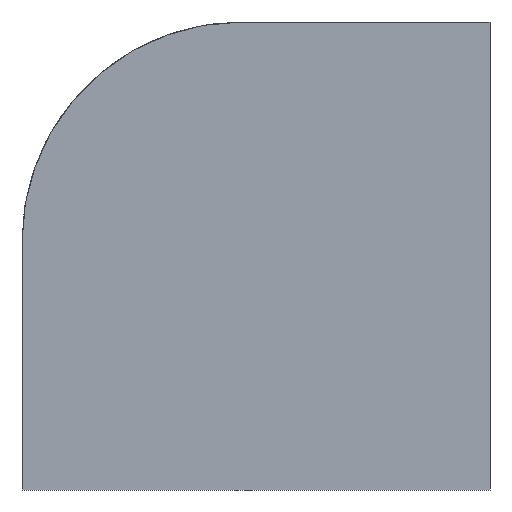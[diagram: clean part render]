
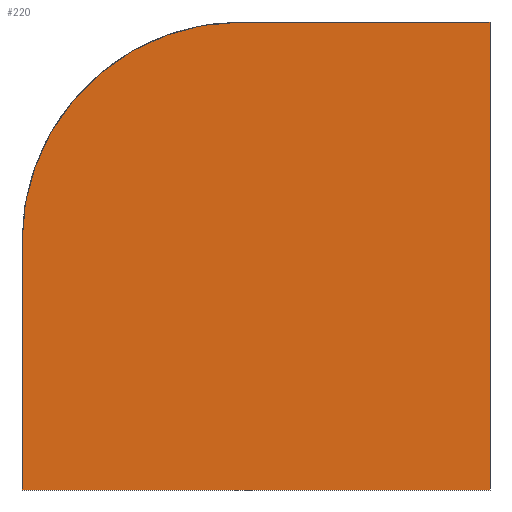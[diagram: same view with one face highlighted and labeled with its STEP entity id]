
A CAD part, front view. The second image highlights one B-rep face of the part: STEP entity #220.
In plain terms, the highlighted planar face has unit normal (0, -1, 0).
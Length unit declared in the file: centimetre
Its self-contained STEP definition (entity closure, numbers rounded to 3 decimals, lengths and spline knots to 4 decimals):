
#5 = VECTOR ( 'NONE', #255, 100. ) ;
#14 = LINE ( 'NONE', #121, #58 ) ;
#18 = PLANE ( 'NONE',  #195 ) ;
#27 = ORIENTED_EDGE ( 'NONE', *, *, #249, .F. ) ;
#28 = EDGE_LOOP ( 'NONE', ( #27, #256, #131, #193, #291 ) ) ;
#35 = DIRECTION ( 'NONE',  ( 0., 1., 0. ) ) ;
#38 = CARTESIAN_POINT ( 'NONE',  ( 0., 0., 0. ) ) ;
#39 = AXIS2_PLACEMENT_3D ( 'NONE', #203, #222, #72 ) ;
#45 = FACE_OUTER_BOUND ( 'NONE', #28, .T. ) ;
#58 = VECTOR ( 'NONE', #224, 100. ) ;
#72 = DIRECTION ( 'NONE',  ( 0., 0., 1. ) ) ;
#97 = CARTESIAN_POINT ( 'NONE',  ( 0., 0., 1000. ) ) ;
#102 = VERTEX_POINT ( 'NONE', #105 ) ;
#105 = CARTESIAN_POINT ( 'NONE',  ( 1000., 0., 1000. ) ) ;
#116 = CARTESIAN_POINT ( 'NONE',  ( 0., 0., 1000. ) ) ;
#118 = VERTEX_POINT ( 'NONE', #232 ) ;
#121 = CARTESIAN_POINT ( 'NONE',  ( 0., 0., 0. ) ) ;
#128 = LINE ( 'NONE', #97, #5 ) ;
#131 = ORIENTED_EDGE ( 'NONE', *, *, #181, .T. ) ;
#137 = VECTOR ( 'NONE', #168, 100. ) ;
#144 = CARTESIAN_POINT ( 'NONE',  ( 0., 0., 1000. ) ) ;
#163 = EDGE_CURVE ( 'NONE', #102, #118, #248, .T. ) ;
#168 = DIRECTION ( 'NONE',  ( 1., 0., 0. ) ) ;
#172 = CARTESIAN_POINT ( 'NONE',  ( 1000., 0., 1000. ) ) ;
#173 = CARTESIAN_POINT ( 'NONE',  ( 468.4721, 0., 1000. ) ) ;
#176 = DIRECTION ( 'NONE',  ( 0., 0., -1. ) ) ;
#181 = EDGE_CURVE ( 'NONE', #301, #241, #128, .T. ) ;
#193 = ORIENTED_EDGE ( 'NONE', *, *, #261, .T. ) ;
#195 = AXIS2_PLACEMENT_3D ( 'NONE', #116, #35, #305 ) ;
#203 = CARTESIAN_POINT ( 'NONE',  ( 468.4721, 0., 531.5279 ) ) ;
#215 = CIRCLE ( 'NONE', #39, 468.4721 ) ;
#220 = ADVANCED_FACE ( 'NONE', ( #45 ), #18, .F. ) ;
#222 = DIRECTION ( 'NONE',  ( 0., -1., 0. ) ) ;
#224 = DIRECTION ( 'NONE',  ( 1., 0., 0. ) ) ;
#228 = CARTESIAN_POINT ( 'NONE',  ( 0., 0., 531.5279 ) ) ;
#232 = CARTESIAN_POINT ( 'NONE',  ( 1000., 0., 0. ) ) ;
#236 = VECTOR ( 'NONE', #176, 100. ) ;
#241 = VERTEX_POINT ( 'NONE', #38 ) ;
#248 = LINE ( 'NONE', #172, #236 ) ;
#249 = EDGE_CURVE ( 'NONE', #329, #102, #325, .T. ) ;
#255 = DIRECTION ( 'NONE',  ( 0., 0., -1. ) ) ;
#256 = ORIENTED_EDGE ( 'NONE', *, *, #306, .T. ) ;
#261 = EDGE_CURVE ( 'NONE', #241, #118, #14, .T. ) ;
#291 = ORIENTED_EDGE ( 'NONE', *, *, #163, .F. ) ;
#301 = VERTEX_POINT ( 'NONE', #228 ) ;
#305 = DIRECTION ( 'NONE',  ( 0., 0., 1. ) ) ;
#306 = EDGE_CURVE ( 'NONE', #329, #301, #215, .T. ) ;
#325 = LINE ( 'NONE', #144, #137 ) ;
#329 = VERTEX_POINT ( 'NONE', #173 ) ;
